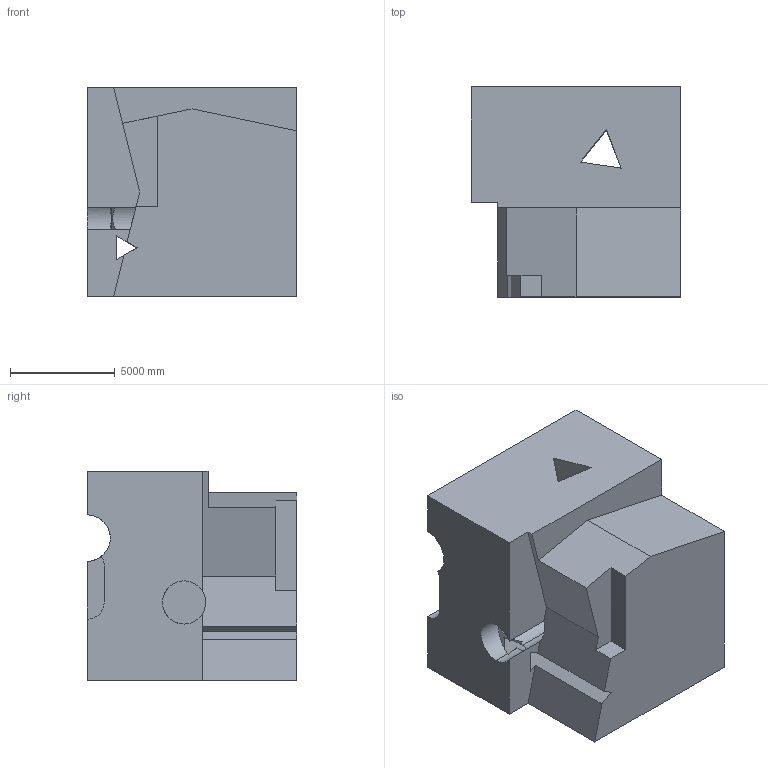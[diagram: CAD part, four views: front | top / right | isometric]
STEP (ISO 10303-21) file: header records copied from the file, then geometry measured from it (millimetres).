
FILE_DESCRIPTION (( 'STEP AP203' ), '1' );
FILE_NAME ('181.STEP', '2022-08-31T12:14:01', ( 'user' ), ( '' ), 'SwSTEP 2.0', 'SolidWorks 2021', '' );
FILE_SCHEMA (( 'CONFIG_CONTROL_DESIGN' ));
Length unit declared in the file: centimetre
Products named in the file (1): 181
Bounding box: 10000 x 10000 x 10000 mm (x, y, z)
Volume: 761712179701.3 mm3; surface area: 708879208.8 mm2
Topology: 1 solids, 1 shells, 44 faces, 141 edges, 94 vertices
Faces by surface type: plane 37, cylinder 7
Entity records: 1636 total; most frequent: CARTESIAN_POINT 322, ORIENTED_EDGE 282, DIRECTION 231, EDGE_CURVE 141, LINE 113, VECTOR 113, VERTEX_POINT 94, AXIS2_PLACEMENT_3D 59
